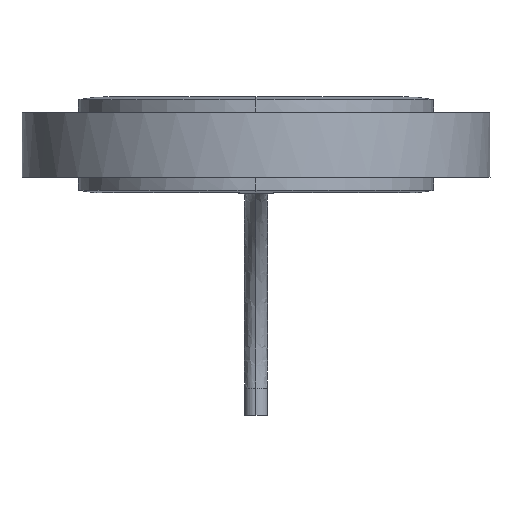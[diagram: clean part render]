
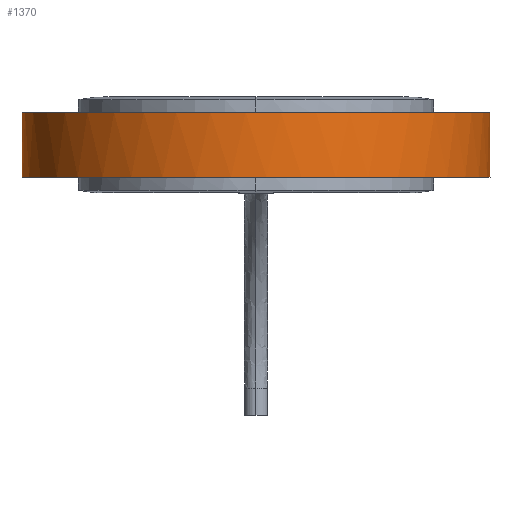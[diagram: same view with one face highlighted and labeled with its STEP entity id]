
A CAD part, front view. The second image highlights one B-rep face of the part: STEP entity #1370.
In plain terms, the highlighted free-form (B-spline) face has degree [11, 1] with [12, 2] control points.
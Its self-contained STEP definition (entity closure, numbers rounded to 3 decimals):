
#88 = CARTESIAN_POINT ( 'NONE',  ( -38.209, -29.105, -4.368 ) ) ;
#110 = CARTESIAN_POINT ( 'NONE',  ( -18.028, 29.784, 4.368 ) ) ;
#203 = CARTESIAN_POINT ( 'NONE',  ( -35.641, 15.309, 4.2 ) ) ;
#299 = CARTESIAN_POINT ( 'NONE',  ( -42.525, -5.68, -4.2 ) ) ;
#341 = CARTESIAN_POINT ( 'NONE',  ( -14.292, -46.498, -4.2 ) ) ;
#402 = CARTESIAN_POINT ( 'NONE',  ( 4.5, 29.964, -4.2 ) ) ;
#476 = ORIENTED_EDGE ( 'NONE', *, *, #757, .T. ) ;
#510 = VECTOR ( 'NONE', #3540, 1000. ) ;
#613 = EDGE_CURVE ( 'NONE', #2774, #1779, #1796, .T. ) ;
#745 = DIRECTION ( 'NONE',  ( 0., 0., 1. ) ) ;
#750 = EDGE_LOOP ( 'NONE', ( #3083, #1175, #760, #476 ) ) ;
#757 = EDGE_CURVE ( 'NONE', #1779, #4218, #2416, .T. ) ;
#760 = ORIENTED_EDGE ( 'NONE', *, *, #613, .T. ) ;
#775 = CARTESIAN_POINT ( 'NONE',  ( 43.987, -3.034, 4.368 ) ) ;
#799 = CARTESIAN_POINT ( 'NONE',  ( 18.028, 29.784, -4.368 ) ) ;
#841 = CARTESIAN_POINT ( 'NONE',  ( 35.691, -29.571, 4.2 ) ) ;
#848 = CARTESIAN_POINT ( 'NONE',  ( 38.211, -29.039, 4.368 ) ) ;
#913 = CARTESIAN_POINT ( 'NONE',  ( 14.291, -46.568, 4.2 ) ) ;
#937 = EDGE_CURVE ( 'NONE', #4306, #2774, #3254, .T. ) ;
#999 = CARTESIAN_POINT ( 'NONE',  ( -4.5, 29.964, 0. ) ) ;
#1155 = CARTESIAN_POINT ( 'NONE',  ( 34.853, 18.613, -4.368 ) ) ;
#1175 = ORIENTED_EDGE ( 'NONE', *, *, #937, .T. ) ;
#1223 = CARTESIAN_POINT ( 'NONE',  ( 4.5, 29.964, 4.2 ) ) ;
#1236 = CARTESIAN_POINT ( 'NONE',  ( 4.5, 29.964, 4.2 ) ) ;
#1370 = ADVANCED_FACE ( 'NONE', ( #3415 ), #1515, .T. ) ;
#1472 = CARTESIAN_POINT ( 'NONE',  ( -20.803, 27.516, -4.2 ) ) ;
#1515 = B_SPLINE_SURFACE_WITH_KNOTS ( 'NONE', 11, 1, ( 
 ( #4070, #2582 ),
 ( #3723, #799 ),
 ( #2230, #1155 ),
 ( #775, #1918 ),
 ( #848, #3743 ),
 ( #4094, #3365 ),
 ( #3341, #2257 ),
 ( #2672, #88 ),
 ( #3673, #3317 ),
 ( #2957, #1581 ),
 ( #110, #3003 ),
 ( #4390, #2603 ) ),
 .UNSPECIFIED., .F., .F., .F.,
 ( 12, 12 ),
 ( 2, 2 ),
 ( -3.112, 3.112 ),
 ( 0.252, 8.988 ),
 .UNSPECIFIED. ) ;
#1581 = CARTESIAN_POINT ( 'NONE',  ( -34.853, 18.613, -4.368 ) ) ;
#1746 = CARTESIAN_POINT ( 'NONE',  ( 4.5, 29.964, -4.2 ) ) ;
#1773 = CARTESIAN_POINT ( 'NONE',  ( 4.5, 29.964, -4.2 ) ) ;
#1779 = VERTEX_POINT ( 'NONE', #1236 ) ;
#1796 = LINE ( 'NONE', #1773, #3238 ) ;
#1814 = CARTESIAN_POINT ( 'NONE',  ( 20.803, 27.515, -4.2 ) ) ;
#1918 = CARTESIAN_POINT ( 'NONE',  ( 43.987, -3.034, -4.368 ) ) ;
#2014 = EDGE_CURVE ( 'NONE', #4218, #4306, #4242, .T. ) ;
#2109 = CARTESIAN_POINT ( 'NONE',  ( -35.69, -29.613, 4.2 ) ) ;
#2230 = CARTESIAN_POINT ( 'NONE',  ( 34.853, 18.613, 4.368 ) ) ;
#2257 = CARTESIAN_POINT ( 'NONE',  ( -15.657, -48.252, -4.368 ) ) ;
#2374 = CARTESIAN_POINT ( 'NONE',  ( -4.5, 29.964, 4.2 ) ) ;
#2416 = B_SPLINE_CURVE_WITH_KNOTS ( 'NONE', 11,
 ( #1223, #2643, #4086, #2667, #841, #913, #4526, #2109, #3147, #203, #3505, #2374 ),
 .UNSPECIFIED., .F., .F.,
 ( 12, 12 ),
 ( 0., 0.181 ),
 .UNSPECIFIED. ) ;
#2531 = CARTESIAN_POINT ( 'NONE',  ( 42.525, -5.69, -4.2 ) ) ;
#2582 = CARTESIAN_POINT ( 'NONE',  ( 0.89, 30.287, -4.368 ) ) ;
#2603 = CARTESIAN_POINT ( 'NONE',  ( -0.89, 30.287, -4.368 ) ) ;
#2643 = CARTESIAN_POINT ( 'NONE',  ( 20.803, 27.515, 4.2 ) ) ;
#2667 = CARTESIAN_POINT ( 'NONE',  ( 42.525, -5.69, 4.2 ) ) ;
#2672 = CARTESIAN_POINT ( 'NONE',  ( -38.209, -29.105, 4.368 ) ) ;
#2774 = VERTEX_POINT ( 'NONE', #402 ) ;
#2880 = CARTESIAN_POINT ( 'NONE',  ( 14.291, -46.568, -4.2 ) ) ;
#2920 = CARTESIAN_POINT ( 'NONE',  ( -35.69, -29.613, -4.2 ) ) ;
#2957 = CARTESIAN_POINT ( 'NONE',  ( -34.853, 18.613, 4.368 ) ) ;
#3003 = CARTESIAN_POINT ( 'NONE',  ( -18.028, 29.784, -4.368 ) ) ;
#3083 = ORIENTED_EDGE ( 'NONE', *, *, #2014, .T. ) ;
#3147 = CARTESIAN_POINT ( 'NONE',  ( -42.525, -5.68, 4.2 ) ) ;
#3238 = VECTOR ( 'NONE', #745, 1000. ) ;
#3254 = B_SPLINE_CURVE_WITH_KNOTS ( 'NONE', 11,
 ( #3553, #1472, #3596, #299, #2920, #341, #2880, #4319, #2531, #3971, #1814, #1746 ),
 .UNSPECIFIED., .F., .F.,
 ( 12, 12 ),
 ( 0., 0.181 ),
 .UNSPECIFIED. ) ;
#3317 = CARTESIAN_POINT ( 'NONE',  ( -43.988, -3.013, -4.368 ) ) ;
#3341 = CARTESIAN_POINT ( 'NONE',  ( -15.657, -48.252, 4.368 ) ) ;
#3365 = CARTESIAN_POINT ( 'NONE',  ( 15.656, -48.355, -4.368 ) ) ;
#3415 = FACE_OUTER_BOUND ( 'NONE', #750, .T. ) ;
#3505 = CARTESIAN_POINT ( 'NONE',  ( -20.803, 27.516, 4.2 ) ) ;
#3540 = DIRECTION ( 'NONE',  ( 0., 0., -1. ) ) ;
#3553 = CARTESIAN_POINT ( 'NONE',  ( -4.5, 29.964, -4.2 ) ) ;
#3596 = CARTESIAN_POINT ( 'NONE',  ( -35.641, 15.309, -4.2 ) ) ;
#3673 = CARTESIAN_POINT ( 'NONE',  ( -43.988, -3.013, 4.368 ) ) ;
#3723 = CARTESIAN_POINT ( 'NONE',  ( 18.028, 29.784, 4.368 ) ) ;
#3743 = CARTESIAN_POINT ( 'NONE',  ( 38.211, -29.039, -4.368 ) ) ;
#3971 = CARTESIAN_POINT ( 'NONE',  ( 35.641, 15.307, -4.2 ) ) ;
#4070 = CARTESIAN_POINT ( 'NONE',  ( 0.89, 30.287, 4.368 ) ) ;
#4086 = CARTESIAN_POINT ( 'NONE',  ( 35.641, 15.307, 4.2 ) ) ;
#4094 = CARTESIAN_POINT ( 'NONE',  ( 15.656, -48.355, 4.368 ) ) ;
#4215 = CARTESIAN_POINT ( 'NONE',  ( -4.5, 29.964, 4.2 ) ) ;
#4218 = VERTEX_POINT ( 'NONE', #4215 ) ;
#4238 = CARTESIAN_POINT ( 'NONE',  ( -4.5, 29.964, -4.2 ) ) ;
#4242 = LINE ( 'NONE', #999, #510 ) ;
#4306 = VERTEX_POINT ( 'NONE', #4238 ) ;
#4319 = CARTESIAN_POINT ( 'NONE',  ( 35.691, -29.571, -4.2 ) ) ;
#4390 = CARTESIAN_POINT ( 'NONE',  ( -0.89, 30.287, 4.368 ) ) ;
#4526 = CARTESIAN_POINT ( 'NONE',  ( -14.292, -46.498, 4.2 ) ) ;
